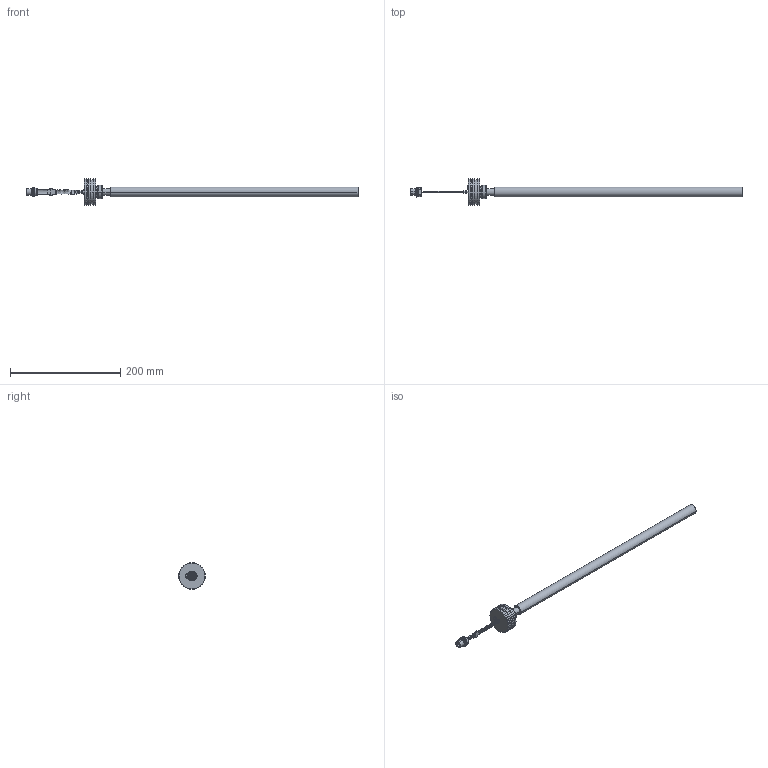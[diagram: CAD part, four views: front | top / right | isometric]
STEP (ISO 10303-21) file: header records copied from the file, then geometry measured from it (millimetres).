
FILE_DESCRIPTION((''),'2;1');
FILE_NAME('EDS-370-Z-LA_MIT_ROHR_ASM','2008-01-02T',('11000065'),(''),'PRO/ENGINEER BY PARAMETRIC TECHNOLOGY CORPORATION, 2007160','PRO/ENGINEER BY PARAMETRIC TECHNOLOGY CORPORATION, 2007160','');
FILE_SCHEMA(('AUTOMOTIVE_DESIGN { 1 2 10303 214 0 1 1 1 }'));
Length unit declared in the file: millimetre
Products named in the file (3): EDS-370-Z-LA; MESSROHR; EDS-370-Z-LA_MIT_ROHR_ASM
Assembly tree (2 placements, depth 2):
  EDS-370-Z-LA_MIT_ROHR_ASM
    EDS-370-Z-LA
    MESSROHR
Bounding box: 603.49 x 48 x 48 mm (x, y, z)
Volume: 131147.7 mm3; surface area: 77132.4 mm2
Topology: 3 solids, 4 shells, 572 faces, 1517 edges, 938 vertices
Faces by surface type: plane 371, cylinder 101, torus 46, cone 46, bspline 8
Entity records: 20419 total; most frequent: CARTESIAN_POINT 5294, ORIENTED_EDGE 3022, DIRECTION 2954, EDGE_CURVE 1513, VECTOR 1000, LINE 1000, AXIS2_PLACEMENT_3D 977, VERTEX_POINT 938
